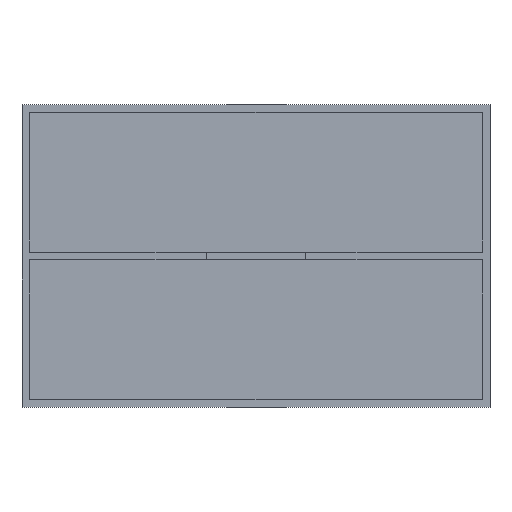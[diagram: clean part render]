
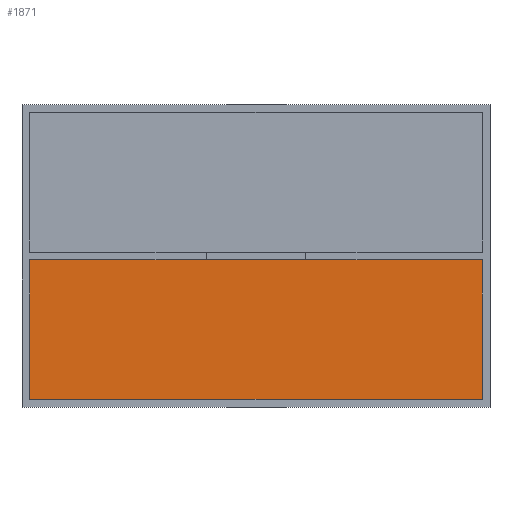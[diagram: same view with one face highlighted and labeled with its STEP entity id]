
A CAD part, top view. The second image highlights one B-rep face of the part: STEP entity #1871.
In plain terms, the highlighted planar face has unit normal (0, 0, 1).
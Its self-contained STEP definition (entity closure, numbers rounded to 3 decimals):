
#396 = PLANE('',#397);
#397 = AXIS2_PLACEMENT_3D('',#398,#399,#400);
#398 = CARTESIAN_POINT('',(72.5,-46.,2.5));
#399 = DIRECTION('',(1.,0.,-0.));
#400 = DIRECTION('',(0.,0.,1.));
#422 = PLANE('',#423);
#423 = AXIS2_PLACEMENT_3D('',#424,#425,#426);
#424 = CARTESIAN_POINT('',(-72.5,-46.,2.5));
#425 = DIRECTION('',(-0.,1.,0.));
#426 = DIRECTION('',(0.,0.,1.));
#448 = PLANE('',#449);
#449 = AXIS2_PLACEMENT_3D('',#450,#451,#452);
#450 = CARTESIAN_POINT('',(-72.5,-46.,2.5));
#451 = DIRECTION('',(1.,0.,-0.));
#452 = DIRECTION('',(0.,0.,1.));
#474 = PLANE('',#475);
#475 = AXIS2_PLACEMENT_3D('',#476,#477,#478);
#476 = CARTESIAN_POINT('',(-72.5,-1.25,2.5));
#477 = DIRECTION('',(-0.,1.,0.));
#478 = DIRECTION('',(0.,0.,1.));
#1083 = VERTEX_POINT('',#1084);
#1084 = CARTESIAN_POINT('',(72.5,-46.,2.5));
#1105 = EDGE_CURVE('',#1083,#1106,#1108,.T.);
#1106 = VERTEX_POINT('',#1107);
#1107 = CARTESIAN_POINT('',(72.5,-1.25,2.5));
#1108 = SURFACE_CURVE('',#1109,(#1113,#1120),.PCURVE_S1.);
#1109 = LINE('',#1110,#1111);
#1110 = CARTESIAN_POINT('',(72.5,-46.,2.5));
#1111 = VECTOR('',#1112,1.);
#1112 = DIRECTION('',(-0.,1.,0.));
#1113 = PCURVE('',#396,#1114);
#1114 = DEFINITIONAL_REPRESENTATION('',(#1115),#1119);
#1115 = LINE('',#1116,#1117);
#1116 = CARTESIAN_POINT('',(0.,0.));
#1117 = VECTOR('',#1118,1.);
#1118 = DIRECTION('',(0.,-1.));
#1119 = ( GEOMETRIC_REPRESENTATION_CONTEXT(2) 
PARAMETRIC_REPRESENTATION_CONTEXT() REPRESENTATION_CONTEXT('2D SPACE',''
  ) );
#1120 = PCURVE('',#1121,#1126);
#1121 = PLANE('',#1122);
#1122 = AXIS2_PLACEMENT_3D('',#1123,#1124,#1125);
#1123 = CARTESIAN_POINT('',(-72.5,-46.,2.5));
#1124 = DIRECTION('',(0.,0.,1.));
#1125 = DIRECTION('',(1.,0.,-0.));
#1126 = DEFINITIONAL_REPRESENTATION('',(#1127),#1131);
#1127 = LINE('',#1128,#1129);
#1128 = CARTESIAN_POINT('',(145.,0.));
#1129 = VECTOR('',#1130,1.);
#1130 = DIRECTION('',(0.,1.));
#1131 = ( GEOMETRIC_REPRESENTATION_CONTEXT(2) 
PARAMETRIC_REPRESENTATION_CONTEXT() REPRESENTATION_CONTEXT('2D SPACE',''
  ) );
#1159 = EDGE_CURVE('',#1160,#1106,#1162,.T.);
#1160 = VERTEX_POINT('',#1161);
#1161 = CARTESIAN_POINT('',(-72.5,-1.25,2.5));
#1162 = SURFACE_CURVE('',#1163,(#1167,#1174),.PCURVE_S1.);
#1163 = LINE('',#1164,#1165);
#1164 = CARTESIAN_POINT('',(-72.5,-1.25,2.5));
#1165 = VECTOR('',#1166,1.);
#1166 = DIRECTION('',(1.,0.,-0.));
#1167 = PCURVE('',#474,#1168);
#1168 = DEFINITIONAL_REPRESENTATION('',(#1169),#1173);
#1169 = LINE('',#1170,#1171);
#1170 = CARTESIAN_POINT('',(0.,0.));
#1171 = VECTOR('',#1172,1.);
#1172 = DIRECTION('',(0.,1.));
#1173 = ( GEOMETRIC_REPRESENTATION_CONTEXT(2) 
PARAMETRIC_REPRESENTATION_CONTEXT() REPRESENTATION_CONTEXT('2D SPACE',''
  ) );
#1174 = PCURVE('',#1121,#1175);
#1175 = DEFINITIONAL_REPRESENTATION('',(#1176),#1180);
#1176 = LINE('',#1177,#1178);
#1177 = CARTESIAN_POINT('',(0.,44.75));
#1178 = VECTOR('',#1179,1.);
#1179 = DIRECTION('',(1.,0.));
#1180 = ( GEOMETRIC_REPRESENTATION_CONTEXT(2) 
PARAMETRIC_REPRESENTATION_CONTEXT() REPRESENTATION_CONTEXT('2D SPACE',''
  ) );
#1592 = VERTEX_POINT('',#1593);
#1593 = CARTESIAN_POINT('',(-72.5,-46.,2.5));
#1614 = EDGE_CURVE('',#1592,#1160,#1615,.T.);
#1615 = SURFACE_CURVE('',#1616,(#1620,#1627),.PCURVE_S1.);
#1616 = LINE('',#1617,#1618);
#1617 = CARTESIAN_POINT('',(-72.5,-46.,2.5));
#1618 = VECTOR('',#1619,1.);
#1619 = DIRECTION('',(-0.,1.,0.));
#1620 = PCURVE('',#448,#1621);
#1621 = DEFINITIONAL_REPRESENTATION('',(#1622),#1626);
#1622 = LINE('',#1623,#1624);
#1623 = CARTESIAN_POINT('',(0.,0.));
#1624 = VECTOR('',#1625,1.);
#1625 = DIRECTION('',(0.,-1.));
#1626 = ( GEOMETRIC_REPRESENTATION_CONTEXT(2) 
PARAMETRIC_REPRESENTATION_CONTEXT() REPRESENTATION_CONTEXT('2D SPACE',''
  ) );
#1627 = PCURVE('',#1121,#1628);
#1628 = DEFINITIONAL_REPRESENTATION('',(#1629),#1633);
#1629 = LINE('',#1630,#1631);
#1630 = CARTESIAN_POINT('',(0.,0.));
#1631 = VECTOR('',#1632,1.);
#1632 = DIRECTION('',(0.,1.));
#1633 = ( GEOMETRIC_REPRESENTATION_CONTEXT(2) 
PARAMETRIC_REPRESENTATION_CONTEXT() REPRESENTATION_CONTEXT('2D SPACE',''
  ) );
#1641 = EDGE_CURVE('',#1592,#1083,#1642,.T.);
#1642 = SURFACE_CURVE('',#1643,(#1647,#1654),.PCURVE_S1.);
#1643 = LINE('',#1644,#1645);
#1644 = CARTESIAN_POINT('',(-72.5,-46.,2.5));
#1645 = VECTOR('',#1646,1.);
#1646 = DIRECTION('',(1.,0.,-0.));
#1647 = PCURVE('',#422,#1648);
#1648 = DEFINITIONAL_REPRESENTATION('',(#1649),#1653);
#1649 = LINE('',#1650,#1651);
#1650 = CARTESIAN_POINT('',(0.,0.));
#1651 = VECTOR('',#1652,1.);
#1652 = DIRECTION('',(0.,1.));
#1653 = ( GEOMETRIC_REPRESENTATION_CONTEXT(2) 
PARAMETRIC_REPRESENTATION_CONTEXT() REPRESENTATION_CONTEXT('2D SPACE',''
  ) );
#1654 = PCURVE('',#1121,#1655);
#1655 = DEFINITIONAL_REPRESENTATION('',(#1656),#1660);
#1656 = LINE('',#1657,#1658);
#1657 = CARTESIAN_POINT('',(0.,0.));
#1658 = VECTOR('',#1659,1.);
#1659 = DIRECTION('',(1.,0.));
#1660 = ( GEOMETRIC_REPRESENTATION_CONTEXT(2) 
PARAMETRIC_REPRESENTATION_CONTEXT() REPRESENTATION_CONTEXT('2D SPACE',''
  ) );
#1871 = ADVANCED_FACE('',(#1872),#1121,.T.);
#1872 = FACE_BOUND('',#1873,.T.);
#1873 = EDGE_LOOP('',(#1874,#1875,#1876,#1877));
#1874 = ORIENTED_EDGE('',*,*,#1614,.F.);
#1875 = ORIENTED_EDGE('',*,*,#1641,.T.);
#1876 = ORIENTED_EDGE('',*,*,#1105,.T.);
#1877 = ORIENTED_EDGE('',*,*,#1159,.F.);
